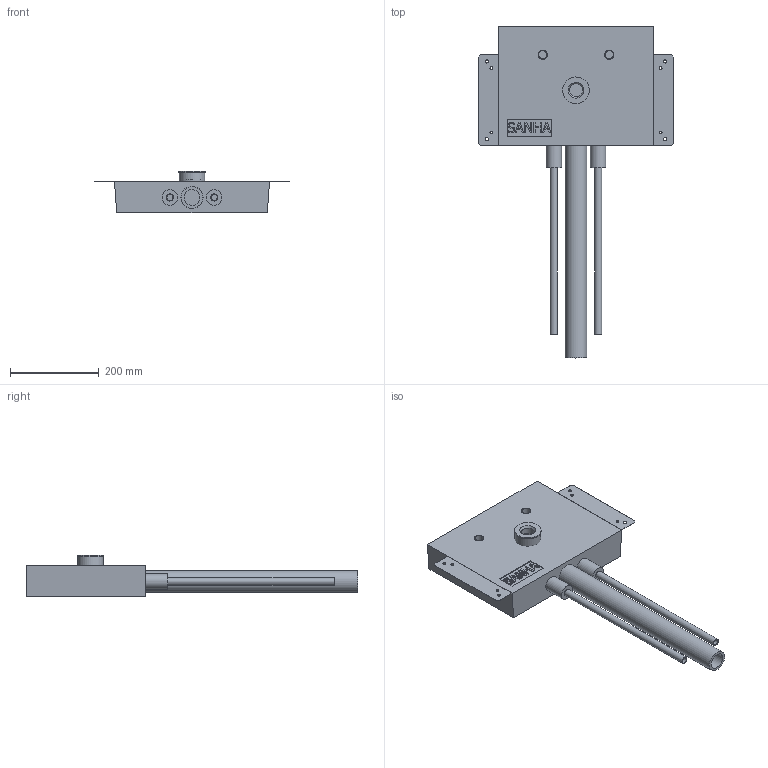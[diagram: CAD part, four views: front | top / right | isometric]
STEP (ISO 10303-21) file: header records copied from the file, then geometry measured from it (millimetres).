
FILE_DESCRIPTION(/* description */ (''),/* implementation_level */ '2;1');
FILE_NAME(/* name */ '\\lg50011\SANHA_LEGNICA\Engineering\Public\PROJEKTY\SANHA-BOX_Support_BiR\002-Rysunki_Boxów\25-WT-T\325WTT16_150.stp',/* time_stamp */ '2018-12-18T13:32:22+01:00',/* author */ ('grzegorz.juzak'),/* organization */ (''),/* preprocessor_version */ 'ST-DEVELOPER v17',/* originating_system */ 'Autodesk Inventor 2019',/* authorisation */ '');
FILE_SCHEMA (('AUTOMOTIVE_DESIGN { 1 0 10303 214 3 1 1 }'));
Length unit declared in the file: millimetre
Products named in the file (6): 325WTT16_150; 325WTT16_150_1; Rura_50; Rura_16x2; KSBMPDW1; Kolano_DN50-OD50_Master3
Assembly tree (7 placements, depth 2):
  325WTT16_150
    325WTT16_150_1
    Rura_50
    Rura_16x2  x2
    KSBMPDW1  x2
    Kolano_DN50-OD50_Master3
Bounding box: 442 x 748.89 x 94.67 mm (x, y, z)
Volume: 7024959.1 mm3; surface area: 594009.1 mm2
Topology: 7 solids, 7 shells, 152 faces, 359 edges, 242 vertices
Faces by surface type: plane 103, cylinder 30, bspline 16, cone 3
Full cylindrical faces by diameter (mm): 6.1 x4, 7 x4, 14 x2, 16 x4, 18.631 x2, 21 x2, 30 x1, 35 x2, 35.993 x1, 48.5 x1, 50 x1, 52.269 x1, 54 x1, 55 x2, 58 x1, 60 x1
Entity records: 4319 total; most frequent: CARTESIAN_POINT 898, ORIENTED_EDGE 646, DIRECTION 619, EDGE_CURVE 323, LINE 229, VECTOR 229, VERTEX_POINT 218, AXIS2_PLACEMENT_3D 195
